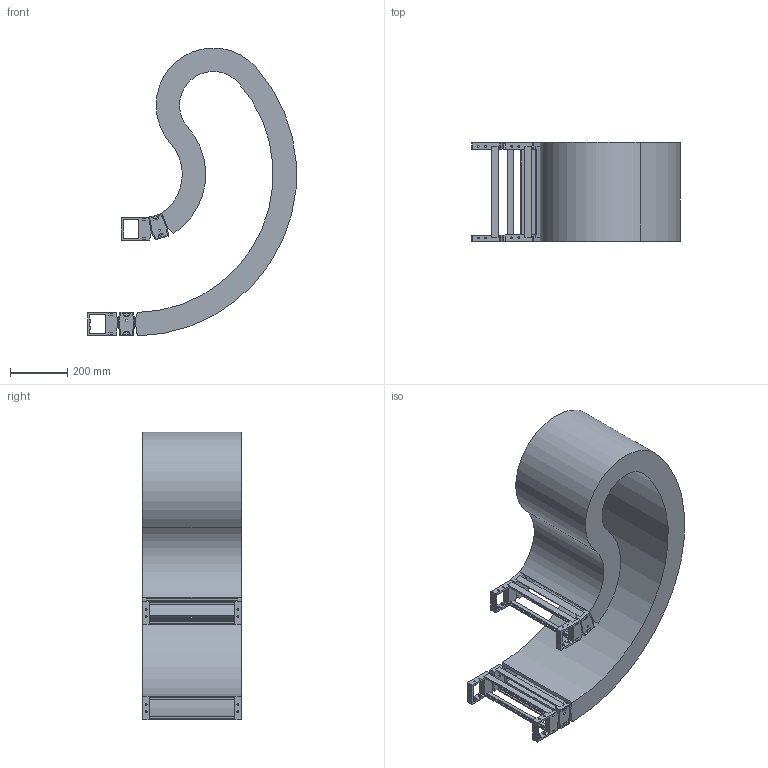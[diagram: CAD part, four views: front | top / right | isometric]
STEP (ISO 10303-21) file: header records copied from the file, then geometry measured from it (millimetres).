
FILE_DESCRIPTION( ( 'STEP AP214' ), '1' );
FILE_NAME( 'p:/temp/worker_16/temp/exporttempdir_1880_949_49EdW/format_0/RV060CRA345349.5165120400485-003003025.05950.stp', '2021-07-27T05:43:23', ( 'License CC BY-ND 4.0' ), ( 'CADENAS' ), ' ', 'PARTsolutions', ' ' );
FILE_SCHEMA( ( 'AUTOMOTIVE_DESIGN { 1 0 10303 214 1 1 1 1 }' ) );
Length unit declared in the file: millimetre
Products named in the file (4): RV060CRA345349.5165120400485-003003025.05950; _RV060CRA345353165120400485-003001845.047-Chain; _RV060CR-SU-300-60; _RV060CR_FB-345
Assembly tree (5 placements, depth 2):
  RV060CRA345349.5165120400485-003003025.05950
    _RV060CRA345353165120400485-003001845.047-Chain
    _RV060CR-SU-300-60  x2
    _RV060CR_FB-345  x2
Bounding box: 729.03 x 345 x 1006.74 mm (x, y, z)
Volume: 21127776.6 mm3; surface area: 3566331.1 mm2
Topology: 5 solids, 5 shells, 508 faces, 1476 edges, 988 vertices
Faces by surface type: plane 400, cylinder 108
Full cylindrical faces by diameter (mm): 6 x24
Entity records: 10820 total; most frequent: CARTESIAN_POINT 1528, ORIENTED_EDGE 1500, DIRECTION 1410, EDGE_CURVE 750, LINE 630, VECTOR 630, VERTEX_POINT 508, AXIS2_PLACEMENT_3D 390
